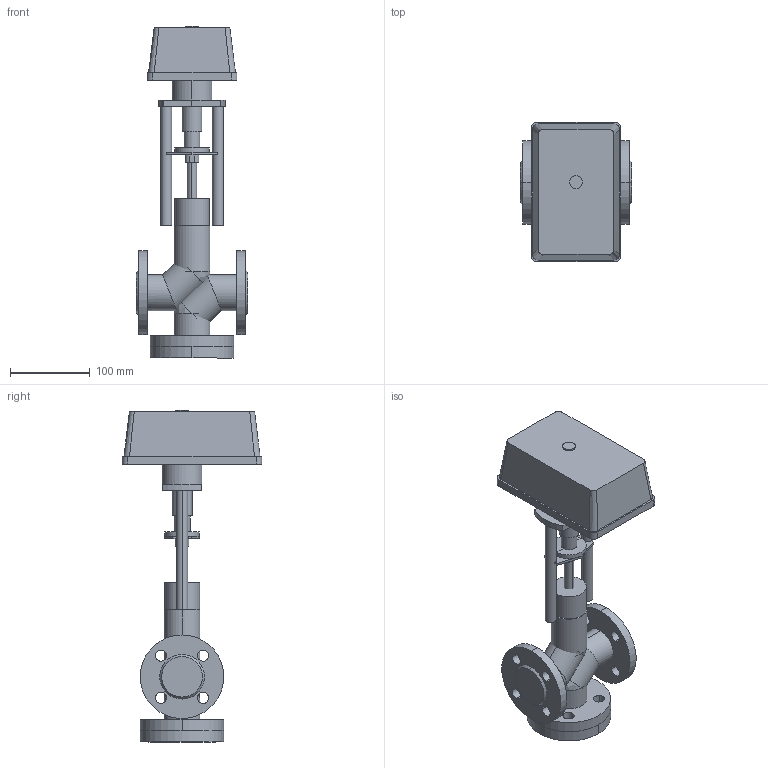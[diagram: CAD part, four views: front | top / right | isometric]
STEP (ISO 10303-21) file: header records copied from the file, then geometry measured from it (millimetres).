
FILE_DESCRIPTION(/* description */ (''),/* implementation_level */ '2;1');
FILE_NAME(/* name */ 'ТРК DN20 PN 1.6 МПа МИЭП-1 1600',/* time_stamp */ '2026-07-14T23:27:51+03:00',/* author */ (''),/* organization */ (''),/* preprocessor_version */ 'ST-DEVELOPER v20',/* originating_system */ '',/* authorisation */ '');
FILE_SCHEMA (('AP242_MANAGED_MODEL_BASED_3D_ENGINEERING_MIM_LF { 1 0 10303 442 1 1 4 }'));
Length unit declared in the file: millimetre
Products named in the file (14): TopLevelAssembly; Выдавливание; Модификатор; Модификатор_1; Выдавливание_
1; Выдавливание_
2; Вращение; Выдавливание_
3; Выдавливание_
4; 1600; Переход; Объемная геометрия 
присоединена; Полый Выдавливание; Объемная геометрия 
присоединена_1
Assembly tree (13 placements, depth 2):
  TopLevelAssembly
    Выдавливание
    Модификатор
    Модификатор_1
    Выдавливание_
1
    Выдавливание_
2
    Вращение
    Выдавливание_
3
    Выдавливание_
4
    1600
    Переход
    Объемная геометрия 
присоединена
    Полый Выдавливание
    Объемная геометрия 
присоединена_1
Bounding box: 140 x 175 x 417 mm (x, y, z)
Volume: 2229333.3 mm3; surface area: 320049.9 mm2
Topology: 23 solids, 23 shells, 171 faces, 357 edges, 226 vertices
Faces by surface type: cylinder 80, plane 79, bspline 8, cone 4
Entity records: 5224 total; most frequent: CARTESIAN_POINT 961, DIRECTION 909, ORIENTED_EDGE 698, AXIS2_PLACEMENT_3D 370, EDGE_CURVE 349, VERTEX_POINT 226, EDGE_LOOP 201, CIRCLE 172
